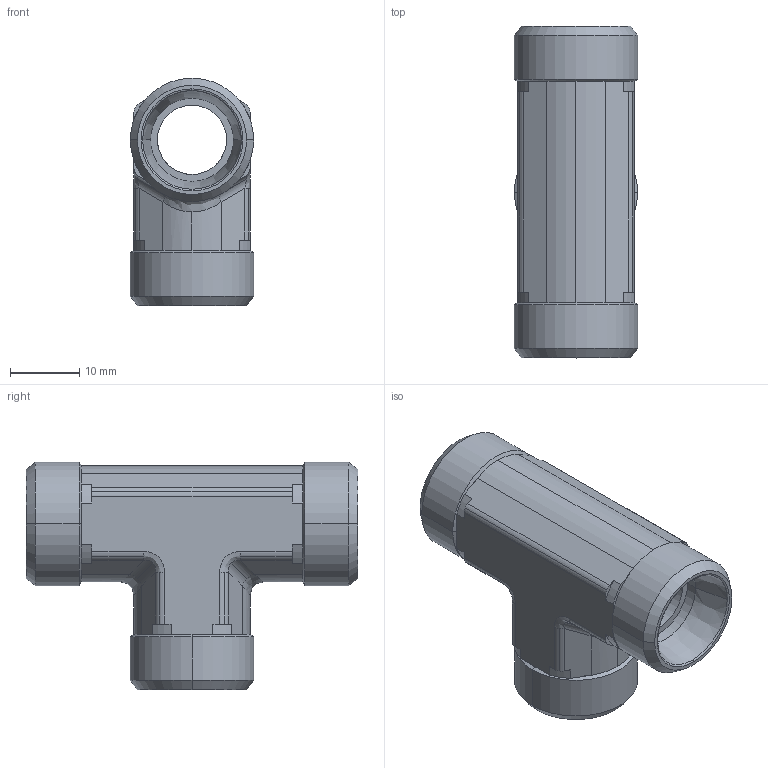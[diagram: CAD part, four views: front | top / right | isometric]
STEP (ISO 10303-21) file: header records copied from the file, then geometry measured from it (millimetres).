
FILE_DESCRIPTION((''),'2;1');
FILE_NAME('103907.stp','2007-10-31T13:10:04',(''),(''),'AutoCAD STEP 2000i','AutoCAD 2000i',', , ');
FILE_SCHEMA(('CONFIG_CONTROL_DESIGN'));
Length unit declared in the file: millimetre
Products named in the file (2): 103907.0; 3091#0
Assembly tree (1 placements, depth 2):
  103907.0
    3091#0
Bounding box: 17.85 x 48 x 32.92 mm (x, y, z)
Volume: 9067.4 mm3; surface area: 5996.5 mm2
Topology: 1 solids, 1 shells, 139 faces, 346 edges, 211 vertices
Faces by surface type: cylinder 67, plane 42, cone 18, bspline 12
Entity records: 4874 total; most frequent: CARTESIAN_POINT 1348, DIRECTION 785, ORIENTED_EDGE 692, EDGE_CURVE 346, AXIS2_PLACEMENT_3D 310, VERTEX_POINT 211, VECTOR 165, LINE 165
